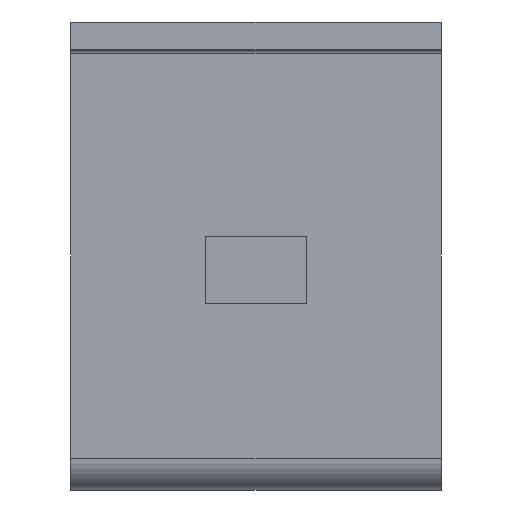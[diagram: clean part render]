
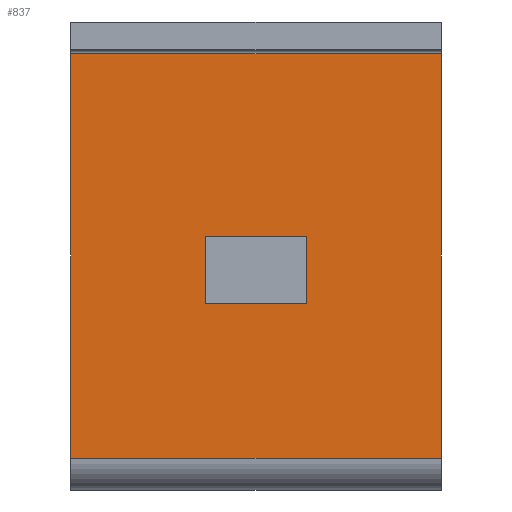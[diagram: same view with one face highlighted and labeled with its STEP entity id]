
A CAD part, left-side view. The second image highlights one B-rep face of the part: STEP entity #837.
In plain terms, the highlighted planar face has unit normal (-1, 0, 0).
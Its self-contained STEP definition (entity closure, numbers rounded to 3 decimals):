
#18=FACE_BOUND('',#153,.T.);
#96=FACE_OUTER_BOUND('',#152,.T.);
#152=EDGE_LOOP('',(#676,#677,#678,#679));
#153=EDGE_LOOP('',(#680,#681,#682,#683));
#173=LINE('',#1184,#261);
#177=LINE('',#1192,#265);
#180=LINE('',#1198,#268);
#183=LINE('',#1203,#271);
#239=LINE('',#1358,#327);
#240=LINE('',#1360,#328);
#241=LINE('',#1362,#329);
#242=LINE('',#1363,#330);
#261=VECTOR('',#938,14.5);
#265=VECTOR('',#944,22.);
#268=VECTOR('',#949,14.5);
#271=VECTOR('',#954,22.);
#327=VECTOR('',#1116,80.);
#328=VECTOR('',#1117,87.4);
#329=VECTOR('',#1118,80.);
#330=VECTOR('',#1119,87.4);
#349=VERTEX_POINT('',#1182);
#350=VERTEX_POINT('',#1183);
#353=VERTEX_POINT('',#1191);
#355=VERTEX_POINT('',#1197);
#401=VERTEX_POINT('',#1351);
#402=VERTEX_POINT('',#1357);
#403=VERTEX_POINT('',#1359);
#404=VERTEX_POINT('',#1361);
#415=EDGE_CURVE('',#349,#350,#173,.T.);
#419=EDGE_CURVE('',#353,#349,#177,.T.);
#422=EDGE_CURVE('',#355,#353,#180,.T.);
#425=EDGE_CURVE('',#350,#355,#183,.T.);
#502=EDGE_CURVE('',#402,#401,#239,.T.);
#503=EDGE_CURVE('',#403,#402,#240,.T.);
#504=EDGE_CURVE('',#403,#404,#241,.T.);
#505=EDGE_CURVE('',#401,#404,#242,.T.);
#676=ORIENTED_EDGE('',*,*,#502,.F.);
#677=ORIENTED_EDGE('',*,*,#503,.F.);
#678=ORIENTED_EDGE('',*,*,#504,.T.);
#679=ORIENTED_EDGE('',*,*,#505,.F.);
#680=ORIENTED_EDGE('',*,*,#415,.T.);
#681=ORIENTED_EDGE('',*,*,#425,.T.);
#682=ORIENTED_EDGE('',*,*,#422,.T.);
#683=ORIENTED_EDGE('',*,*,#419,.T.);
#782=PLANE('',#912);
#837=ADVANCED_FACE('',(#96,#18),#782,.F.);
#912=AXIS2_PLACEMENT_3D('',#1356,#1114,#1115);
#938=DIRECTION('',(0.,0.,1.));
#944=DIRECTION('',(0.,1.,0.));
#949=DIRECTION('',(0.,0.,-1.));
#954=DIRECTION('',(0.,-1.,0.));
#1114=DIRECTION('center_axis',(1.,0.,0.));
#1115=DIRECTION('ref_axis',(0.,0.,-1.));
#1116=DIRECTION('',(0.,1.,0.));
#1117=DIRECTION('',(0.,0.,-1.));
#1118=DIRECTION('',(0.,1.,0.));
#1119=DIRECTION('',(0.,0.,1.));
#1182=CARTESIAN_POINT('',(-46.,11.,-60.75));
#1183=CARTESIAN_POINT('',(-46.,11.,-46.25));
#1184=CARTESIAN_POINT('',(-46.,11.,-98.625));
#1191=CARTESIAN_POINT('',(-46.,-11.,-60.75));
#1192=CARTESIAN_POINT('',(-46.,-5.5,-60.75));
#1197=CARTESIAN_POINT('',(-46.,-11.,-46.25));
#1198=CARTESIAN_POINT('',(-46.,-11.,-91.375));
#1203=CARTESIAN_POINT('',(-46.,5.5,-46.25));
#1351=CARTESIAN_POINT('',(-46.,40.,-94.2));
#1356=CARTESIAN_POINT('Origin',(-46.,0.,-136.5));
#1357=CARTESIAN_POINT('',(-46.,-40.,-94.2));
#1358=CARTESIAN_POINT('',(-46.,0.,-94.2));
#1359=CARTESIAN_POINT('',(-46.,-40.,-6.8));
#1360=CARTESIAN_POINT('',(-46.,-40.,-269.3));
#1361=CARTESIAN_POINT('',(-46.,40.,-6.8));
#1362=CARTESIAN_POINT('',(-46.,0.,-6.8));
#1363=CARTESIAN_POINT('',(-46.,40.,35.5));
